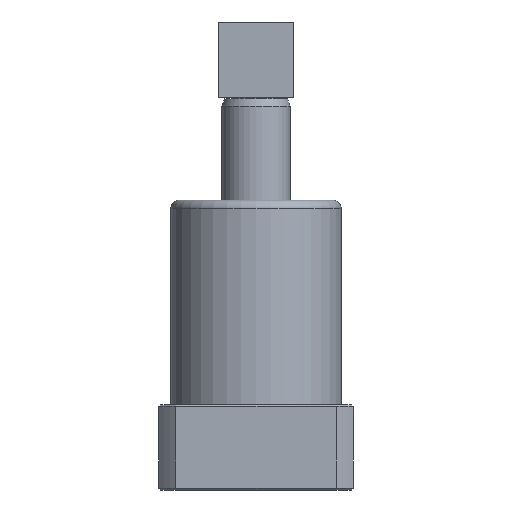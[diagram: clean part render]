
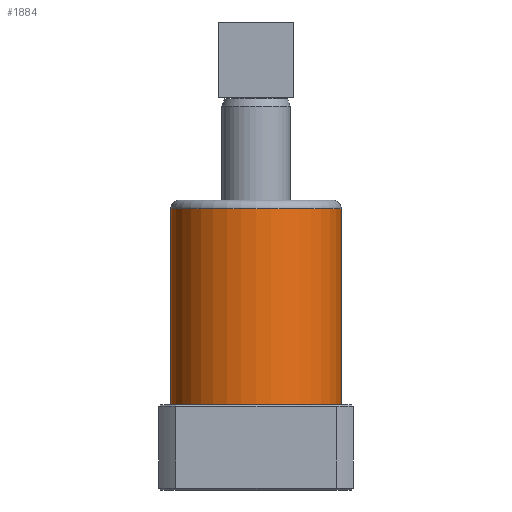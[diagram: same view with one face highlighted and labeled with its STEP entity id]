
A CAD part, left-side view. The second image highlights one B-rep face of the part: STEP entity #1884.
In plain terms, the highlighted cylindrical face has radius 25 mm (diameter 50 mm), a full revolution.
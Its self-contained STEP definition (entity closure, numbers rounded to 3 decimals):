
#161=CYLINDRICAL_SURFACE('',#2108,25.);
#438=ORIENTED_EDGE('',*,*,#928,.T.);
#439=ORIENTED_EDGE('',*,*,#917,.F.);
#917=EDGE_CURVE('',#1165,#1165,#1327,.F.);
#928=EDGE_CURVE('',#1176,#1176,#1334,.F.);
#1165=VERTEX_POINT('',#2899);
#1176=VERTEX_POINT('',#2923);
#1327=CIRCLE('',#2100,25.);
#1334=CIRCLE('',#2109,25.);
#1442=EDGE_LOOP('',(#438));
#1443=EDGE_LOOP('',(#439));
#1646=FACE_BOUND('',#1442,.T.);
#1647=FACE_BOUND('',#1443,.T.);
#1884=ADVANCED_FACE('',(#1646,#1647),#161,.T.);
#2100=AXIS2_PLACEMENT_3D('',#2898,#2391,#2392);
#2108=AXIS2_PLACEMENT_3D('',#2921,#2411,#2412);
#2109=AXIS2_PLACEMENT_3D('',#2922,#2413,#2414);
#2391=DIRECTION('',(0.,0.,1.));
#2392=DIRECTION('',(0.,-1.,0.));
#2411=DIRECTION('',(0.,0.,-1.));
#2412=DIRECTION('',(0.,1.,0.));
#2413=DIRECTION('',(0.,0.,1.));
#2414=DIRECTION('',(0.,-1.,0.));
#2898=CARTESIAN_POINT('',(0.,30.5,-43.6));
#2899=CARTESIAN_POINT('',(0.,5.5,-43.6));
#2921=CARTESIAN_POINT('',(0.,30.5,16.4));
#2922=CARTESIAN_POINT('',(0.,30.5,13.9));
#2923=CARTESIAN_POINT('',(0.,5.5,13.9));
